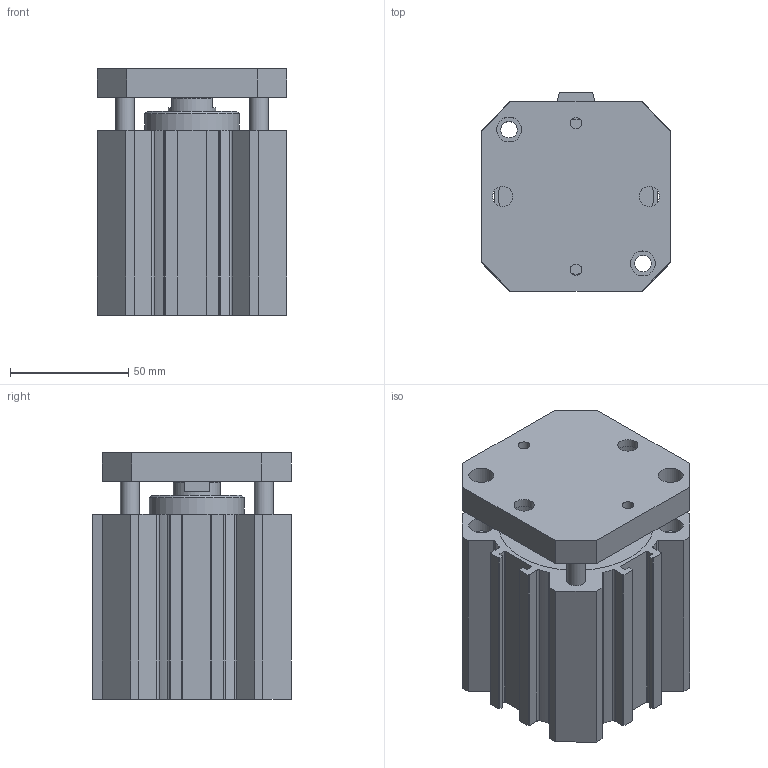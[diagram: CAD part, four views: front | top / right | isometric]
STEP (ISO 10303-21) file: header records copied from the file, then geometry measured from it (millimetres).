
FILE_DESCRIPTION(/* description */ ('TUBO PROFILATO COMPATTI Ø40'),/* implementation_level */ '2;1');
FILE_NAME(/* name */ 'I:\Area Tecnica\Disegni\VARIE-3D\Componenti\1500\Ø63\15##_63_####_#\1501_63_0040_AR.stp',/* time_stamp */ '2016-08-24T13:52:24+02:00',/* author */ ('Maniean1'),/* organization */ ('Pneumax S.p.A.'),/* preprocessor_version */ 'ST-DEVELOPER v15.2',/* originating_system */ 'Autodesk Inventor 2014',/* authorisation */ '');
FILE_SCHEMA (('AUTOMOTIVE_DESIGN { 1 0 10303 214 3 1 1 }'));
Length unit declared in the file: millimetre
Products named in the file (3): C_1501_63_0040_AR; S_1501_63_0040_AR; 1501_63_0040_AR
Bounding box: 80 x 84 x 104 mm (x, y, z)
Volume: 368626.2 mm3; surface area: 104403 mm2
Topology: 2 solids, 2 shells, 185 faces, 481 edges, 322 vertices
Faces by surface type: plane 94, cylinder 86, cone 5
Full cylindrical faces by diameter (mm): 4.917 x2, 7 x4, 8 x4, 8.5 x2, 8.566 x2, 10.5 x8, 13.5 x2, 20 x2, 40 x2, 63 x2, 65.5 x2
Entity records: 5739 total; most frequent: DIRECTION 994, CARTESIAN_POINT 950, ORIENTED_EDGE 876, EDGE_CURVE 438, AXIS2_PLACEMENT_3D 370, VERTEX_POINT 314, EDGE_LOOP 262, LINE 254
